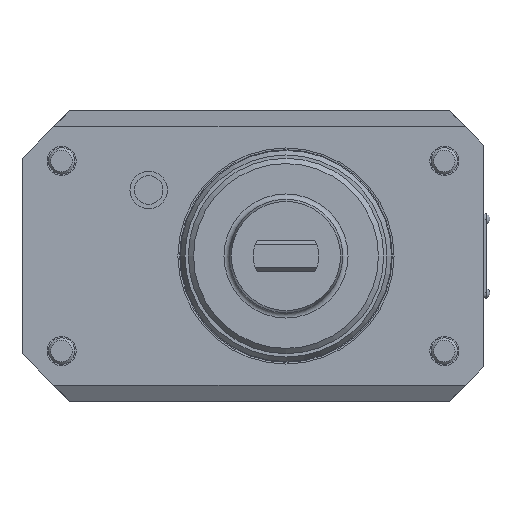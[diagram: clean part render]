
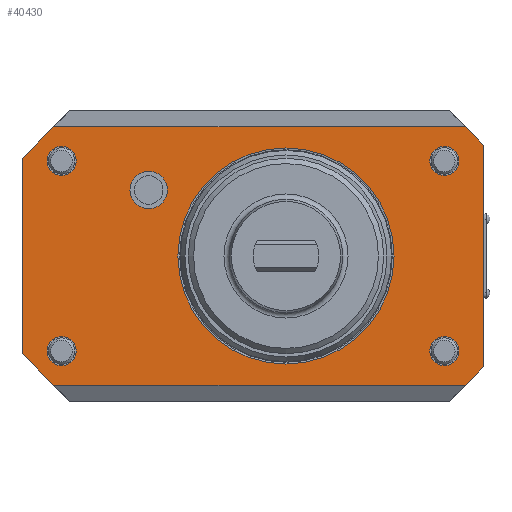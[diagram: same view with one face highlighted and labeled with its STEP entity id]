
A CAD part, left-side view. The second image highlights one B-rep face of the part: STEP entity #40430.
In plain terms, the highlighted planar face has unit normal (-1, 0, 0).
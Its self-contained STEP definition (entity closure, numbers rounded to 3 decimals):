
#17287=VECTOR('',#27181,1.);
#17292=VECTOR('',#27188,1.);
#17340=VECTOR('',#27336,1.);
#17342=VECTOR('',#27340,1.);
#17343=VECTOR('',#27343,1.);
#17344=VECTOR('',#27344,1.);
#17345=VECTOR('',#27345,1.);
#17346=VECTOR('',#27346,1.);
#18089=LINE('',#30400,#17287);
#18094=LINE('',#30408,#17292);
#18142=LINE('',#31022,#17340);
#18144=LINE('',#31025,#17342);
#18145=LINE('',#31028,#17343);
#18146=LINE('',#31030,#17344);
#18147=LINE('',#31032,#17345);
#18148=LINE('',#31033,#17346);
#19299=PLANE('',#39438);
#19925=ORIENTED_EDGE('',*,*,#23973,.F.);
#19926=ORIENTED_EDGE('',*,*,#23978,.F.);
#19927=ORIENTED_EDGE('',*,*,#24061,.F.);
#19928=ORIENTED_EDGE('',*,*,#24062,.F.);
#19929=ORIENTED_EDGE('',*,*,#24063,.F.);
#19930=ORIENTED_EDGE('',*,*,#24064,.F.);
#19931=ORIENTED_EDGE('',*,*,#24058,.F.);
#19932=ORIENTED_EDGE('',*,*,#24060,.F.);
#19933=ORIENTED_EDGE('',*,*,#24065,.F.);
#19934=ORIENTED_EDGE('',*,*,#24066,.F.);
#19935=ORIENTED_EDGE('',*,*,#24067,.F.);
#19936=ORIENTED_EDGE('',*,*,#24068,.F.);
#19937=ORIENTED_EDGE('',*,*,#24069,.F.);
#19938=ORIENTED_EDGE('',*,*,#24070,.T.);
#22566=CIRCLE('',#39439,40.94);
#22567=CIRCLE('',#39440,5.5);
#22568=CIRCLE('',#39441,5.5);
#22569=CIRCLE('',#39442,5.5);
#22570=CIRCLE('',#39443,5.5);
#22571=CIRCLE('',#39444,7.09);
#22946=VERTEX_POINT('',#30396);
#22948=VERTEX_POINT('',#30399);
#22950=VERTEX_POINT('',#30406);
#23005=VERTEX_POINT('',#31019);
#23006=VERTEX_POINT('',#31021);
#23007=VERTEX_POINT('',#31027);
#23008=VERTEX_POINT('',#31029);
#23009=VERTEX_POINT('',#31031);
#23010=VERTEX_POINT('',#31034);
#23011=VERTEX_POINT('',#31036);
#23012=VERTEX_POINT('',#31038);
#23013=VERTEX_POINT('',#31040);
#23014=VERTEX_POINT('',#31042);
#23015=VERTEX_POINT('',#31044);
#23973=EDGE_CURVE('',#22946,#22948,#18089,.T.);
#23978=EDGE_CURVE('',#22950,#22946,#18094,.T.);
#24058=EDGE_CURVE('',#23005,#23006,#18142,.T.);
#24060=EDGE_CURVE('',#22948,#23005,#18144,.T.);
#24061=EDGE_CURVE('',#23007,#22950,#18145,.T.);
#24062=EDGE_CURVE('',#23008,#23007,#18146,.T.);
#24063=EDGE_CURVE('',#23009,#23008,#18147,.T.);
#24064=EDGE_CURVE('',#23006,#23009,#18148,.T.);
#24065=EDGE_CURVE('',#23010,#23010,#22566,.T.);
#24066=EDGE_CURVE('',#23011,#23011,#22567,.T.);
#24067=EDGE_CURVE('',#23012,#23012,#22568,.T.);
#24068=EDGE_CURVE('',#23013,#23013,#22569,.T.);
#24069=EDGE_CURVE('',#23014,#23014,#22570,.T.);
#24070=EDGE_CURVE('',#23015,#23015,#22571,.T.);
#25424=EDGE_LOOP('',(#19925,#19926,#19927,#19928,#19929,#19930,#19931,#19932));
#25425=EDGE_LOOP('',(#19933));
#25426=EDGE_LOOP('',(#19934));
#25427=EDGE_LOOP('',(#19935));
#25428=EDGE_LOOP('',(#19936));
#25429=EDGE_LOOP('',(#19937));
#25430=EDGE_LOOP('',(#19938));
#26279=FACE_BOUND('',#25424,.T.);
#26280=FACE_BOUND('',#25425,.T.);
#26281=FACE_BOUND('',#25426,.T.);
#26282=FACE_BOUND('',#25427,.T.);
#26283=FACE_BOUND('',#25428,.T.);
#26284=FACE_BOUND('',#25429,.T.);
#26285=FACE_BOUND('',#25430,.T.);
#27181=DIRECTION('',(0.,12.,12.));
#27188=DIRECTION('',(0.,156.,0.));
#27336=DIRECTION('',(0.,-12.,12.));
#27340=DIRECTION('',(0.,0.,74.));
#27341=DIRECTION('',(-1.,0.,0.));
#27342=DIRECTION('',(0.,1.,0.));
#27343=DIRECTION('',(0.,7.,-7.));
#27344=DIRECTION('',(0.,0.,-84.));
#27345=DIRECTION('',(0.,-7.,-7.));
#27346=DIRECTION('',(0.,-156.,0.));
#27347=DIRECTION('',(-1.,0.,0.));
#27348=DIRECTION('',(0.,40.94,0.));
#27349=DIRECTION('',(-1.,0.,0.));
#27350=DIRECTION('',(0.,5.5,0.));
#27351=DIRECTION('',(-1.,0.,0.));
#27352=DIRECTION('',(0.,5.5,0.));
#27353=DIRECTION('',(-1.,0.,0.));
#27354=DIRECTION('',(0.,5.5,0.));
#27355=DIRECTION('',(-1.,0.,0.));
#27356=DIRECTION('',(0.,5.5,0.));
#27357=DIRECTION('',(1.,0.,0.));
#27358=DIRECTION('',(0.,7.09,0.));
#30396=CARTESIAN_POINT('',(0.,88.,-49.));
#30399=CARTESIAN_POINT('',(0.,100.,-37.));
#30400=CARTESIAN_POINT('',(0.,88.,-49.));
#30406=CARTESIAN_POINT('',(0.,-68.,-49.));
#30408=CARTESIAN_POINT('',(0.,-68.,-49.));
#31019=CARTESIAN_POINT('',(0.,100.,37.));
#31021=CARTESIAN_POINT('',(0.,88.,49.));
#31022=CARTESIAN_POINT('',(0.,100.,37.));
#31025=CARTESIAN_POINT('',(0.,100.,-37.));
#31026=CARTESIAN_POINT('',(0.,88.,-49.));
#31027=CARTESIAN_POINT('',(0.,-75.,-42.));
#31028=CARTESIAN_POINT('',(0.,-75.,-42.));
#31029=CARTESIAN_POINT('',(0.,-75.,42.));
#31030=CARTESIAN_POINT('',(0.,-75.,42.));
#31031=CARTESIAN_POINT('',(0.,-68.,49.));
#31032=CARTESIAN_POINT('',(0.,-68.,49.));
#31033=CARTESIAN_POINT('',(0.,88.,49.));
#31034=CARTESIAN_POINT('',(0.,40.94,0.));
#31035=CARTESIAN_POINT('',(0.,0.,0.));
#31036=CARTESIAN_POINT('',(0.,-54.5,36.));
#31037=CARTESIAN_POINT('',(0.,-60.,36.));
#31038=CARTESIAN_POINT('',(0.,-54.5,-36.));
#31039=CARTESIAN_POINT('',(0.,-60.,-36.));
#31040=CARTESIAN_POINT('',(0.,90.5,36.));
#31041=CARTESIAN_POINT('',(0.,85.,36.));
#31042=CARTESIAN_POINT('',(0.,90.5,-36.));
#31043=CARTESIAN_POINT('',(0.,85.,-36.));
#31044=CARTESIAN_POINT('',(0.,59.09,25.));
#31045=CARTESIAN_POINT('',(0.,52.,25.));
#39438=AXIS2_PLACEMENT_3D('',#31026,#27341,#27342);
#39439=AXIS2_PLACEMENT_3D('',#31035,#27347,#27348);
#39440=AXIS2_PLACEMENT_3D('',#31037,#27349,#27350);
#39441=AXIS2_PLACEMENT_3D('',#31039,#27351,#27352);
#39442=AXIS2_PLACEMENT_3D('',#31041,#27353,#27354);
#39443=AXIS2_PLACEMENT_3D('',#31043,#27355,#27356);
#39444=AXIS2_PLACEMENT_3D('',#31045,#27357,#27358);
#40430=ADVANCED_FACE('',(#26279,#26280,#26281,#26282,#26283,#26284,#26285),
#19299,.T.);
